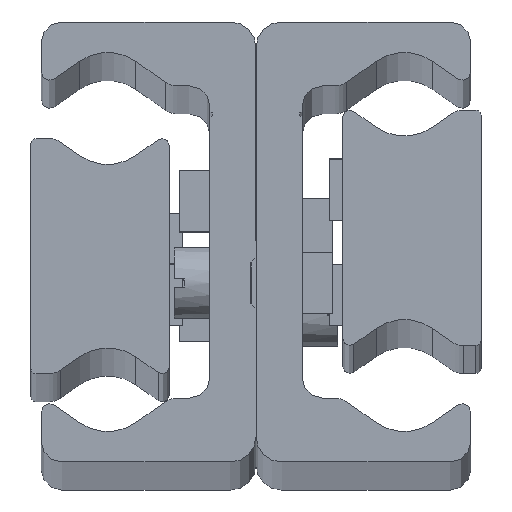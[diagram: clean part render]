
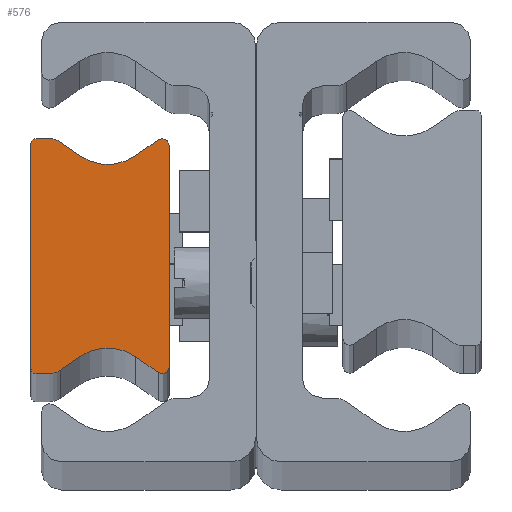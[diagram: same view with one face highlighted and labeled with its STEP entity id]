
A CAD part, top view. The second image highlights one B-rep face of the part: STEP entity #576.
In plain terms, the highlighted planar face has unit normal (0, 0, 1) as drawn and (0, 0, -1) by its records, which use the part's own axes.
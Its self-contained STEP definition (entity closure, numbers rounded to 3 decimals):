
#576 = ADVANCED_FACE( '', ( #1347 ), #1348, .F. );
#1347 = FACE_OUTER_BOUND( '', #2245, .T. );
#1348 = PLANE( '', #2246 );
#2245 = EDGE_LOOP( '', ( #3617, #3618, #3619, #3620, #3621, #3622, #3623, #3624, #3625, #3626, #3627, #3628, #3629, #3630, #3631, #3632 ) );
#2246 = AXIS2_PLACEMENT_3D( '', #3633, #3634, #3635 );
#3617 = ORIENTED_EDGE( '', *, *, #4589, .F. );
#3618 = ORIENTED_EDGE( '', *, *, #4828, .F. );
#3619 = ORIENTED_EDGE( '', *, *, #4829, .F. );
#3620 = ORIENTED_EDGE( '', *, *, #4604, .F. );
#3621 = ORIENTED_EDGE( '', *, *, #4830, .F. );
#3622 = ORIENTED_EDGE( '', *, *, #4594, .T. );
#3623 = ORIENTED_EDGE( '', *, *, #4635, .F. );
#3624 = ORIENTED_EDGE( '', *, *, #4469, .F. );
#3625 = ORIENTED_EDGE( '', *, *, #4712, .F. );
#3626 = ORIENTED_EDGE( '', *, *, #4366, .F. );
#3627 = ORIENTED_EDGE( '', *, *, #4688, .F. );
#3628 = ORIENTED_EDGE( '', *, *, #4518, .T. );
#3629 = ORIENTED_EDGE( '', *, *, #4563, .F. );
#3630 = ORIENTED_EDGE( '', *, *, #4831, .F. );
#3631 = ORIENTED_EDGE( '', *, *, #4657, .F. );
#3632 = ORIENTED_EDGE( '', *, *, #4832, .F. );
#3633 = CARTESIAN_POINT( '', ( 0.5, -11., -1570. ) );
#3634 = DIRECTION( '', ( 0., 0., 1. ) );
#3635 = DIRECTION( '', ( 1., 0., 0. ) );
#4366 = EDGE_CURVE( '', #5034, #5036, #5037, .T. );
#4469 = EDGE_CURVE( '', #5209, #5211, #5212, .T. );
#4518 = EDGE_CURVE( '', #5294, #5292, #5295, .T. );
#4563 = EDGE_CURVE( '', #5362, #5292, #5364, .T. );
#4589 = EDGE_CURVE( '', #5408, #5410, #5411, .T. );
#4594 = EDGE_CURVE( '', #5419, #5417, #5420, .T. );
#4604 = EDGE_CURVE( '', #5435, #5437, #5438, .T. );
#4635 = EDGE_CURVE( '', #5211, #5417, #5485, .T. );
#4657 = EDGE_CURVE( '', #5519, #5521, #5522, .T. );
#4688 = EDGE_CURVE( '', #5294, #5034, #5563, .T. );
#4712 = EDGE_CURVE( '', #5036, #5209, #5605, .T. );
#4828 = EDGE_CURVE( '', #5784, #5408, #5785, .T. );
#4829 = EDGE_CURVE( '', #5437, #5784, #5786, .T. );
#4830 = EDGE_CURVE( '', #5419, #5435, #5787, .T. );
#4831 = EDGE_CURVE( '', #5521, #5362, #5788, .T. );
#4832 = EDGE_CURVE( '', #5410, #5519, #5789, .T. );
#5034 = VERTEX_POINT( '', #6030 );
#5036 = VERTEX_POINT( '', #6033 );
#5037 = CIRCLE( '', #6034, 0.668 );
#5209 = VERTEX_POINT( '', #6238 );
#5211 = VERTEX_POINT( '', #6241 );
#5212 = CIRCLE( '', #6242, 0.668 );
#5292 = VERTEX_POINT( '', #6340 );
#5294 = VERTEX_POINT( '', #6343 );
#5295 = CIRCLE( '', #6344, 4.763 );
#5362 = VERTEX_POINT( '', #6421 );
#5364 = LINE( '', #6424, #6425 );
#5408 = VERTEX_POINT( '', #6474 );
#5410 = VERTEX_POINT( '', #6477 );
#5411 = LINE( '', #6478, #6479 );
#5417 = VERTEX_POINT( '', #6486 );
#5419 = VERTEX_POINT( '', #6489 );
#5420 = CIRCLE( '', #6490, 4.763 );
#5435 = VERTEX_POINT( '', #6508 );
#5437 = VERTEX_POINT( '', #6511 );
#5438 = CIRCLE( '', #6512, 2. );
#5485 = LINE( '', #6569, #6570 );
#5519 = VERTEX_POINT( '', #6610 );
#5521 = VERTEX_POINT( '', #6613 );
#5522 = LINE( '', #6614, #6615 );
#5563 = LINE( '', #6665, #6666 );
#5605 = LINE( '', #6713, #6714 );
#5784 = VERTEX_POINT( '', #6931 );
#5785 = CIRCLE( '', #6932, 0.5 );
#5786 = LINE( '', #6933, #6934 );
#5787 = LINE( '', #6935, #6936 );
#5788 = CIRCLE( '', #6937, 2. );
#5789 = CIRCLE( '', #6938, 0.5 );
#6030 = CARTESIAN_POINT( '', ( 12.449, -11.379, -1570. ) );
#6033 = CARTESIAN_POINT( '', ( 13.5, -10.832, -1570. ) );
#6034 = AXIS2_PLACEMENT_3D( '', #7187, #7188, #7189 );
#6238 = CARTESIAN_POINT( '', ( 13.5, 10.832, -1570. ) );
#6241 = CARTESIAN_POINT( '', ( 12.449, 11.379, -1570. ) );
#6242 = AXIS2_PLACEMENT_3D( '', #7346, #7347, #7348 );
#6340 = CARTESIAN_POINT( '', ( 4.768, -9.827, -1570. ) );
#6343 = CARTESIAN_POINT( '', ( 10.232, -9.827, -1570. ) );
#6344 = AXIS2_PLACEMENT_3D( '', #7416, #7417, #7418 );
#6421 = CARTESIAN_POINT( '', ( 2.895, -11.138, -1570. ) );
#6424 = CARTESIAN_POINT( '', ( 2.895, -11.138, -1570. ) );
#6425 = VECTOR( '', #7487, 1000. );
#6474 = CARTESIAN_POINT( '', ( 0., 11., -1570. ) );
#6477 = CARTESIAN_POINT( '', ( 0., -11., -1570. ) );
#6478 = CARTESIAN_POINT( '', ( 0., 11., -1570. ) );
#6479 = VECTOR( '', #7539, 1000. );
#6486 = CARTESIAN_POINT( '', ( 10.232, 9.827, -1570. ) );
#6489 = CARTESIAN_POINT( '', ( 4.768, 9.827, -1570. ) );
#6490 = AXIS2_PLACEMENT_3D( '', #7545, #7546, #7547 );
#6508 = CARTESIAN_POINT( '', ( 2.895, 11.138, -1570. ) );
#6511 = CARTESIAN_POINT( '', ( 1.748, 11.5, -1570. ) );
#6512 = AXIS2_PLACEMENT_3D( '', #7561, #7562, #7563 );
#6569 = CARTESIAN_POINT( '', ( 12.449, 11.379, -1570. ) );
#6570 = VECTOR( '', #7604, 1000. );
#6610 = CARTESIAN_POINT( '', ( 0.5, -11.5, -1570. ) );
#6613 = CARTESIAN_POINT( '', ( 1.748, -11.5, -1570. ) );
#6614 = CARTESIAN_POINT( '', ( 0.5, -11.5, -1570. ) );
#6615 = VECTOR( '', #7633, 1000. );
#6665 = CARTESIAN_POINT( '', ( 10.232, -9.827, -1570. ) );
#6666 = VECTOR( '', #7673, 1000. );
#6713 = CARTESIAN_POINT( '', ( 13.5, -10.832, -1570. ) );
#6714 = VECTOR( '', #7724, 1000. );
#6931 = CARTESIAN_POINT( '', ( 0.5, 11.5, -1570. ) );
#6932 = AXIS2_PLACEMENT_3D( '', #7907, #7908, #7909 );
#6933 = CARTESIAN_POINT( '', ( 1.748, 11.5, -1570. ) );
#6934 = VECTOR( '', #7910, 1000. );
#6935 = CARTESIAN_POINT( '', ( 4.768, 9.827, -1570. ) );
#6936 = VECTOR( '', #7911, 1000. );
#6937 = AXIS2_PLACEMENT_3D( '', #7912, #7913, #7914 );
#6938 = AXIS2_PLACEMENT_3D( '', #7915, #7916, #7917 );
#7187 = CARTESIAN_POINT( '', ( 12.832, -10.832, -1570. ) );
#7188 = DIRECTION( '', ( 0., 0., 1. ) );
#7189 = DIRECTION( '', ( 1., 0., 0. ) );
#7346 = CARTESIAN_POINT( '', ( 12.832, 10.832, -1570. ) );
#7347 = DIRECTION( '', ( 0., 0., 1. ) );
#7348 = DIRECTION( '', ( 1., 0., 0. ) );
#7416 = CARTESIAN_POINT( '', ( 7.5, -13.729, -1570. ) );
#7417 = DIRECTION( '', ( 0., 0., 1. ) );
#7418 = DIRECTION( '', ( 1., 0., 0. ) );
#7487 = DIRECTION( '', ( 0.819, 0.574, 0. ) );
#7539 = DIRECTION( '', ( 0., -1., 0. ) );
#7545 = CARTESIAN_POINT( '', ( 7.5, 13.729, -1570. ) );
#7546 = DIRECTION( '', ( 0., 0., 1. ) );
#7547 = DIRECTION( '', ( 1., 0., 0. ) );
#7561 = CARTESIAN_POINT( '', ( 1.748, 9.5, -1570. ) );
#7562 = DIRECTION( '', ( 0., 0., 1. ) );
#7563 = DIRECTION( '', ( 1., 0., 0. ) );
#7604 = DIRECTION( '', ( -0.819, -0.574, 0. ) );
#7633 = DIRECTION( '', ( 1., 0., 0. ) );
#7673 = DIRECTION( '', ( 0.819, -0.574, 0. ) );
#7724 = DIRECTION( '', ( 0., 1., 0. ) );
#7907 = CARTESIAN_POINT( '', ( 0.5, 11., -1570. ) );
#7908 = DIRECTION( '', ( 0., 0., 1. ) );
#7909 = DIRECTION( '', ( 1., 0., 0. ) );
#7910 = DIRECTION( '', ( -1., 0., 0. ) );
#7911 = DIRECTION( '', ( -0.819, 0.574, 0. ) );
#7912 = CARTESIAN_POINT( '', ( 1.748, -9.5, -1570. ) );
#7913 = DIRECTION( '', ( 0., 0., 1. ) );
#7914 = DIRECTION( '', ( 1., 0., 0. ) );
#7915 = CARTESIAN_POINT( '', ( 0.5, -11., -1570. ) );
#7916 = DIRECTION( '', ( 0., 0., 1. ) );
#7917 = DIRECTION( '', ( 1., 0., 0. ) );
